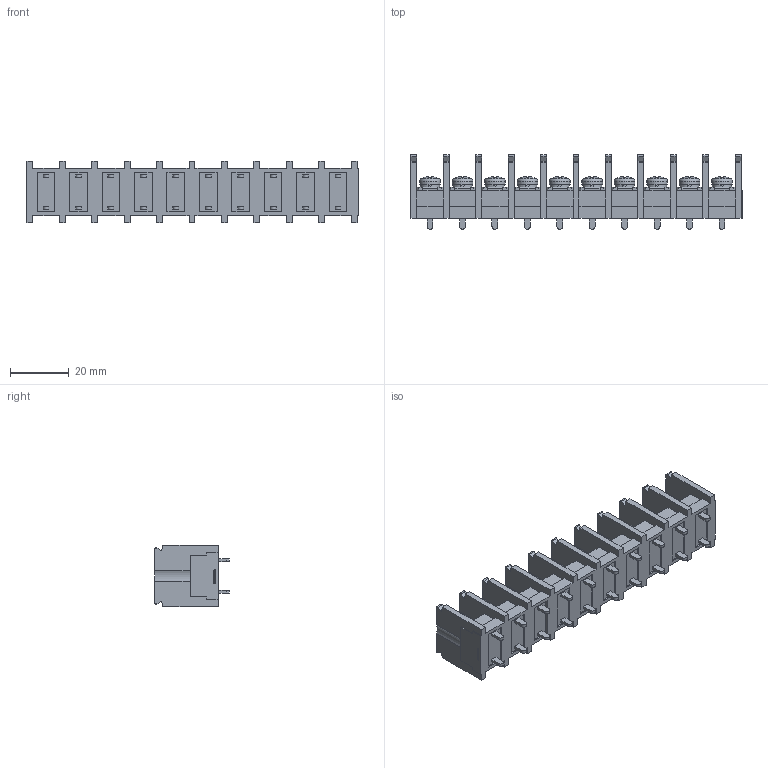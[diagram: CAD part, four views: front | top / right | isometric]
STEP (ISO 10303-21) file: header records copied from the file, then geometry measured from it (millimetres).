
FILE_DESCRIPTION(/* description */ ('Alibre Inc.'),/* implementation_level */ '2;1');
FILE_NAME(/* name */ 'export0',/* time_stamp */ '2015-12-02T12:37:07+09:00',/* author */ (''),/* organization */ (''),/* preprocessor_version */ 'ST-DEVELOPER v14',/* originating_system */ 'Alibre',/* authorisation */ '');
FILE_SCHEMA (('CONFIG_CONTROL_DESIGN'));
Length unit declared in the file: centimetre
Products named in the file (1): ID_1
Bounding box: 112.6 x 25.3 x 21 mm (x, y, z)
Volume: 20258.9 mm3; surface area: 21625.9 mm2
Topology: 1 solids, 17 shells, 1420 faces, 3868 edges, 2572 vertices
Faces by surface type: plane 1122, cylinder 124, bspline 104, cone 50, sphere 10, torus 10
Full cylindrical faces by diameter (mm): 4 x10, 6.5 x10, 7 x10
Entity records: 42731 total; most frequent: CARTESIAN_POINT 8890, ORIENTED_EDGE 7656, DIRECTION 5393, EDGE_CURVE 3828, VECTOR 2927, LINE 2927, VERTEX_POINT 2572, AXIS2_PLACEMENT_3D 1743
